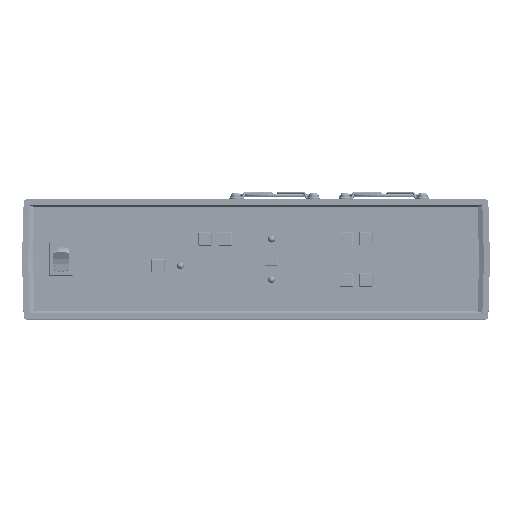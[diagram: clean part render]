
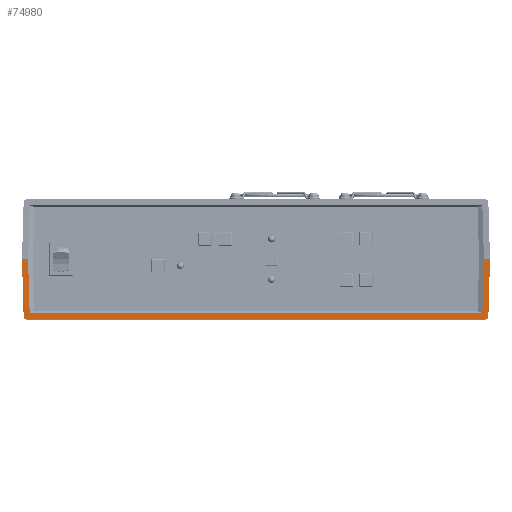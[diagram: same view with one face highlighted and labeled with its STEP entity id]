
A CAD part, top view. The second image highlights one B-rep face of the part: STEP entity #74980.
In plain terms, the highlighted planar face has unit normal (0, 0, 1).
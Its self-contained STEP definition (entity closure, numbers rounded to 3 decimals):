
#2380 = CARTESIAN_POINT ( 'NONE',  ( -146.1, 34.5, 200. ) ) ;
#5489 = ORIENTED_EDGE ( 'NONE', *, *, #87441, .F. ) ;
#11178 = CARTESIAN_POINT ( 'NONE',  ( -149.998, 34.387, 200. ) ) ;
#15065 = VECTOR ( 'NONE', #347313, 1000. ) ;
#15516 = EDGE_CURVE ( 'NONE', #298135, #81425, #164444, .T. ) ;
#17419 = ORIENTED_EDGE ( 'NONE', *, *, #138845, .F. ) ;
#35619 = CARTESIAN_POINT ( 'NONE',  ( -145.1, 0., 200. ) ) ;
#35902 = AXIS2_PLACEMENT_3D ( 'NONE', #145875, #46798, #285927 ) ;
#39298 = CARTESIAN_POINT ( 'NONE',  ( -145.1, 0., 200. ) ) ;
#41857 = ORIENTED_EDGE ( 'NONE', *, *, #284904, .T. ) ;
#46792 = LINE ( 'NONE', #394083, #393390 ) ;
#46798 = DIRECTION ( 'NONE',  ( 0., 0., 1. ) ) ;
#48207 = DIRECTION ( 'NONE',  ( 0.029, 1., 0. ) ) ;
#50451 = ORIENTED_EDGE ( 'NONE', *, *, #431032, .T. ) ;
#54548 = EDGE_CURVE ( 'NONE', #103820, #307416, #252878, .T. ) ;
#60055 = LINE ( 'NONE', #131390, #15065 ) ;
#60348 = CARTESIAN_POINT ( 'NONE',  ( -145.1, 0., 200. ) ) ;
#74980 = ADVANCED_FACE ( 'NONE', ( #376073 ), #304699, .F. ) ;
#76010 = DIRECTION ( 'NONE',  ( 0.029, -1., 0. ) ) ;
#76867 = LINE ( 'NONE', #35619, #126550 ) ;
#77910 = CARTESIAN_POINT ( 'NONE',  ( 149.998, 34.387, 200. ) ) ;
#81425 = VERTEX_POINT ( 'NONE', #363792 ) ;
#87441 = EDGE_CURVE ( 'NONE', #241964, #307416, #352236, .T. ) ;
#90423 = VECTOR ( 'NONE', #198908, 1000. ) ;
#90910 = DIRECTION ( 'NONE',  ( 0., 0., -1. ) ) ;
#103820 = VERTEX_POINT ( 'NONE', #285341 ) ;
#111692 = DIRECTION ( 'NONE',  ( 1., 0.029, 0. ) ) ;
#126550 = VECTOR ( 'NONE', #251557, 1000. ) ;
#131390 = CARTESIAN_POINT ( 'NONE',  ( 145.1, 0., 200. ) ) ;
#135392 = AXIS2_PLACEMENT_3D ( 'NONE', #145086, #351960, #276124 ) ;
#138845 = EDGE_CURVE ( 'NONE', #176429, #241964, #60055, .T. ) ;
#145086 = CARTESIAN_POINT ( 'NONE',  ( -146.946, -1.9, 200. ) ) ;
#145875 = CARTESIAN_POINT ( 'NONE',  ( 146.946, -1.9, 200. ) ) ;
#150713 = ORIENTED_EDGE ( 'NONE', *, *, #54548, .T. ) ;
#157753 = ORIENTED_EDGE ( 'NONE', *, *, #15516, .T. ) ;
#164444 = LINE ( 'NONE', #442702, #90423 ) ;
#176429 = VERTEX_POINT ( 'NONE', #422971 ) ;
#178064 = VERTEX_POINT ( 'NONE', #60348 ) ;
#181788 = VERTEX_POINT ( 'NONE', #2380 ) ;
#184327 = CARTESIAN_POINT ( 'NONE',  ( 146.1, 34.5, 200. ) ) ;
#196748 = DIRECTION ( 'NONE',  ( -1., 0., 0. ) ) ;
#198147 = CARTESIAN_POINT ( 'NONE',  ( -148.945, -1.958, 200. ) ) ;
#198908 = DIRECTION ( 'NONE',  ( 1., 0., 0. ) ) ;
#212017 = AXIS2_PLACEMENT_3D ( 'NONE', #326134, #90910, #196748 ) ;
#220269 = VECTOR ( 'NONE', #76010, 1000. ) ;
#222106 = VERTEX_POINT ( 'NONE', #198147 ) ;
#229322 = EDGE_CURVE ( 'NONE', #178064, #176429, #76867, .T. ) ;
#241964 = VERTEX_POINT ( 'NONE', #310835 ) ;
#246427 = ORIENTED_EDGE ( 'NONE', *, *, #453941, .T. ) ;
#247378 = CARTESIAN_POINT ( 'NONE',  ( -146.946, -3.9, 200. ) ) ;
#248835 = CIRCLE ( 'NONE', #35902, 2. ) ;
#249515 = VECTOR ( 'NONE', #359085, 1000. ) ;
#251557 = DIRECTION ( 'NONE',  ( 1., 0., 0. ) ) ;
#252878 = LINE ( 'NONE', #328717, #444081 ) ;
#268445 = VECTOR ( 'NONE', #111692, 1000. ) ;
#276124 = DIRECTION ( 'NONE',  ( -1., 0., 0. ) ) ;
#281398 = DIRECTION ( 'NONE',  ( 0.029, -1., 0. ) ) ;
#284904 = EDGE_CURVE ( 'NONE', #222106, #298135, #333541, .T. ) ;
#285341 = CARTESIAN_POINT ( 'NONE',  ( 148.945, -1.958, 200. ) ) ;
#285927 = DIRECTION ( 'NONE',  ( -1., 0., 0. ) ) ;
#292842 = ORIENTED_EDGE ( 'NONE', *, *, #314204, .F. ) ;
#293437 = EDGE_CURVE ( 'NONE', #322504, #181788, #390051, .T. ) ;
#298135 = VERTEX_POINT ( 'NONE', #247378 ) ;
#304699 = PLANE ( 'NONE',  #212017 ) ;
#307416 = VERTEX_POINT ( 'NONE', #77910 ) ;
#310835 = CARTESIAN_POINT ( 'NONE',  ( 146.1, 34.5, 200. ) ) ;
#314204 = EDGE_CURVE ( 'NONE', #181788, #178064, #391063, .T. ) ;
#322504 = VERTEX_POINT ( 'NONE', #11178 ) ;
#326134 = CARTESIAN_POINT ( 'NONE',  ( 149.998, 34.387, 200. ) ) ;
#328717 = CARTESIAN_POINT ( 'NONE',  ( 148.998, -0.113, 200. ) ) ;
#333541 = CIRCLE ( 'NONE', #135392, 2. ) ;
#347313 = DIRECTION ( 'NONE',  ( 0.029, 1., 0. ) ) ;
#351960 = DIRECTION ( 'NONE',  ( 0., 0., 1. ) ) ;
#352236 = LINE ( 'NONE', #184327, #249515 ) ;
#354034 = EDGE_LOOP ( 'NONE', ( #157753, #50451, #150713, #5489, #17419, #382343, #292842, #451619, #246427, #41857 ) ) ;
#359085 = DIRECTION ( 'NONE',  ( 1., -0.029, 0. ) ) ;
#363792 = CARTESIAN_POINT ( 'NONE',  ( 146.946, -3.9, 200. ) ) ;
#376073 = FACE_OUTER_BOUND ( 'NONE', #354034, .T. ) ;
#382343 = ORIENTED_EDGE ( 'NONE', *, *, #229322, .F. ) ;
#390051 = LINE ( 'NONE', #426859, #268445 ) ;
#391063 = LINE ( 'NONE', #39298, #220269 ) ;
#393390 = VECTOR ( 'NONE', #281398, 1000. ) ;
#394083 = CARTESIAN_POINT ( 'NONE',  ( -148.998, -0.113, 200. ) ) ;
#422971 = CARTESIAN_POINT ( 'NONE',  ( 145.1, 0., 200. ) ) ;
#426859 = CARTESIAN_POINT ( 'NONE',  ( -149.998, 34.387, 200. ) ) ;
#431032 = EDGE_CURVE ( 'NONE', #81425, #103820, #248835, .T. ) ;
#442702 = CARTESIAN_POINT ( 'NONE',  ( -145.1, -3.9, 200. ) ) ;
#444081 = VECTOR ( 'NONE', #48207, 1000. ) ;
#451619 = ORIENTED_EDGE ( 'NONE', *, *, #293437, .F. ) ;
#453941 = EDGE_CURVE ( 'NONE', #322504, #222106, #46792, .T. ) ;
